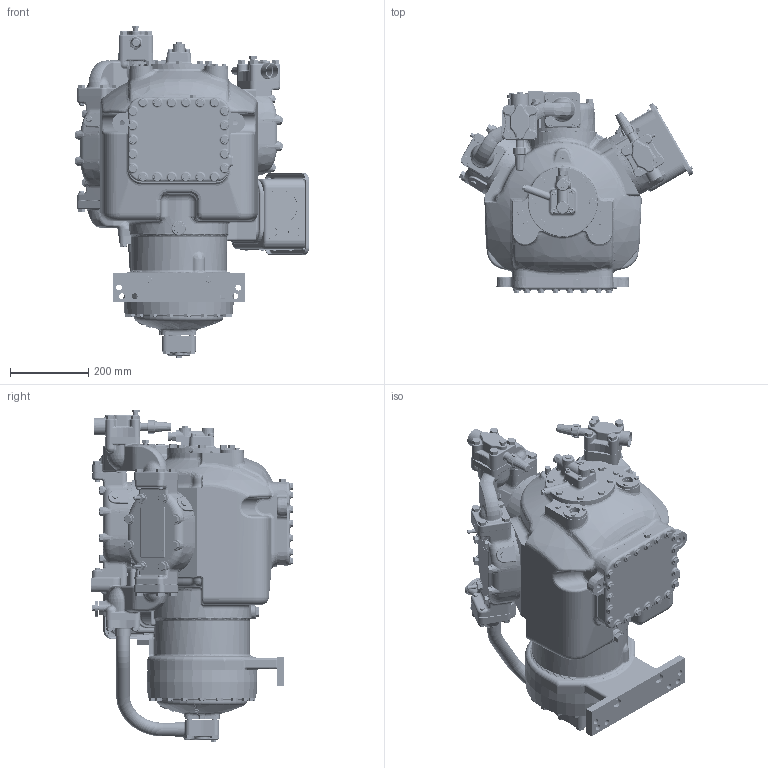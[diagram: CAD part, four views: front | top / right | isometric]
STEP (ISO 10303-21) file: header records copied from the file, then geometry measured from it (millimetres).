
FILE_DESCRIPTION((''),'2;1');
FILE_NAME('ECBBBC2AAE40D_ASM','2016-07-21T',('shankara.k'),('CARRIER_CORP'),'CREO PARAMETRIC BY PTC INC, 2015290','CREO PARAMETRIC BY PTC INC, 2015290','');
FILE_SCHEMA(('CONFIG_CONTROL_DESIGN'));
Length unit declared in the file: inch
Products named in the file (8): ECBBBC2AAE40D_SKEL; ECBBBC2AAE40CC1; 6D68-1131; EN07EA039; EN07EA041; AA06BR298; AA06BR297; ECBBBC2AAE40D_ASM
Assembly tree (14 placements, depth 2):
  ECBBBC2AAE40D_ASM
    ECBBBC2AAE40D_SKEL
    ECBBBC2AAE40CC1
    6D68-1131  x2
    EN07EA039
    EN07EA041
    AA06BR298  x4
    AA06BR297  x4
Bounding box: 599.15 x 516.58 x 847.7 mm (x, y, z)
Volume: 75336234.6 mm3; surface area: 2022263.2 mm2
Topology: 20 solids, 20 shells, 8500 faces, 21171 edges, 12950 vertices
Faces by surface type: plane 3744, cylinder 1930, cone 1342, bspline 824, torus 544, sphere 90, extrusion 26
Entity records: 350508 total; most frequent: CARTESIAN_POINT 158810, ORIENTED_EDGE 41570, DIRECTION 38609, EDGE_CURVE 20785, AXIS2_PLACEMENT_3D 15018, VERTEX_POINT 12742, EDGE_LOOP 8741, VECTOR 8573
